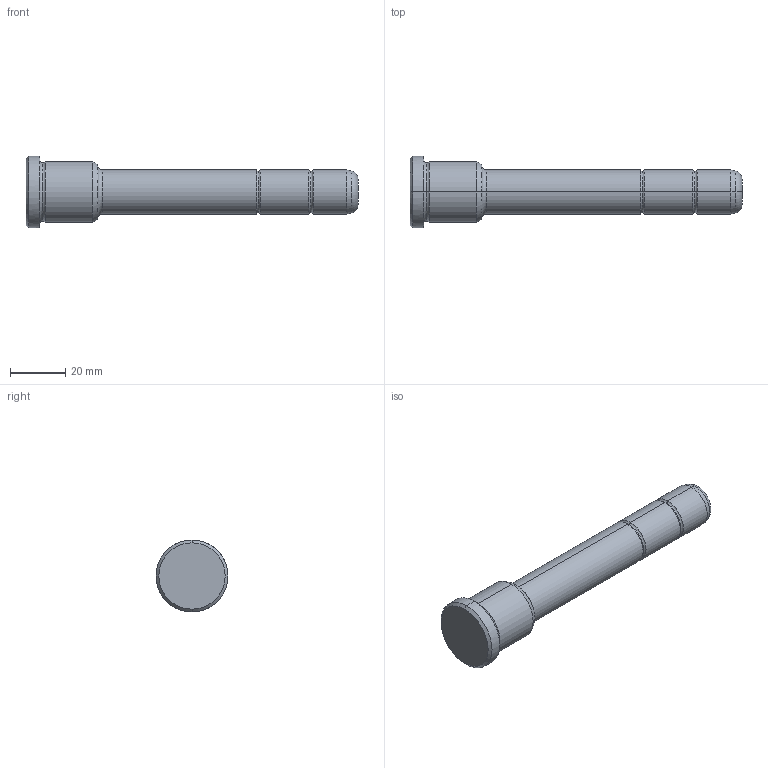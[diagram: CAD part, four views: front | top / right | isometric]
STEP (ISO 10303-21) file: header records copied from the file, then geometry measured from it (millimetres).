
FILE_DESCRIPTION(('CATIA V5 STEP Exchange'),'2;1');
FILE_NAME('C:\Users\Utente\Desktop\IO LAVORO\3D X SITO CF\X SITO\PLASTICA\351\351-16X26X120.stp','2021-08-18T10:50:16+00:00',('none'),('none'),'CATIA Version 5 Release 20 GA (IN-10)','CATIA V5 STEP AP203','none');
FILE_SCHEMA(('CONFIG_CONTROL_DESIGN'));
Length unit declared in the file: millimetre
Products named in the file (1): 351-16X26X120
Bounding box: 120 x 26 x 26 mm (x, y, z)
Volume: 29197.9 mm3; surface area: 7468 mm2
Topology: 1 solids, 1 shells, 36 faces, 102 edges, 70 vertices
Faces by surface type: torus 16, cylinder 10, cone 6, plane 4
Entity records: 1292 total; most frequent: CARTESIAN_POINT 321, ORIENTED_EDGE 204, DIRECTION 166, AXIS2_PLACEMENT_3D 115, EDGE_CURVE 102, CIRCLE 78, VERTEX_POINT 70, EDGE_LOOP 38
